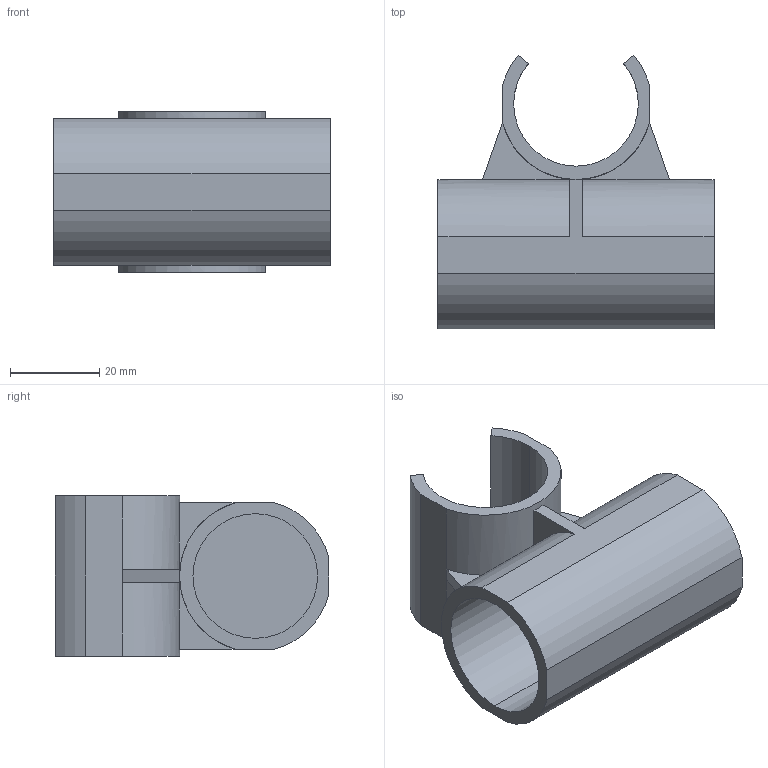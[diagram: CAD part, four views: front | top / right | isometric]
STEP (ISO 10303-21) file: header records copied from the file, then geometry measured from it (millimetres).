
FILE_DESCRIPTION (( 'STEP AP214' ), '1' );
FILE_NAME ('PJ-302A.STEP', '2023-09-12T11:07:00', ( 'catia' ), ( 'HP Inc.' ), 'SwSTEP 2.0', 'SolidWorks 2021', '' );
FILE_SCHEMA (( 'AUTOMOTIVE_DESIGN' ));
Length unit declared in the file: millimetre
Products named in the file (1): PJ-302A
Bounding box: 62 x 61.43 x 36 mm (x, y, z)
Volume: 27072.8 mm3; surface area: 19615.4 mm2
Topology: 1 solids, 1 shells, 38 faces, 98 edges, 64 vertices
Faces by surface type: plane 23, cylinder 15
Entity records: 1200 total; most frequent: DIRECTION 210, CARTESIAN_POINT 207, ORIENTED_EDGE 196, EDGE_CURVE 98, AXIS2_PLACEMENT_3D 75, VERTEX_POINT 64, VECTOR 60, LINE 60
